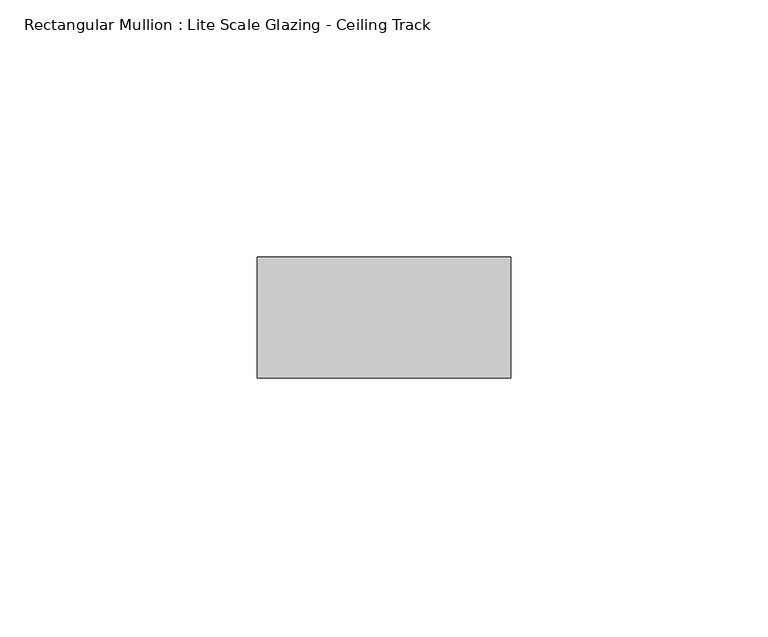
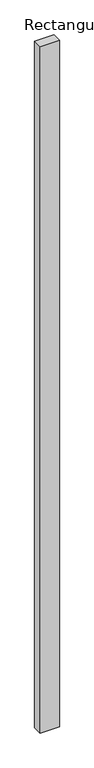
"""IFC4 building model written with IfcOpenShell, lengths in millimetres: member geometry, Rectangular Mullion : Lite Scale Glazing - Ceiling Track."""

from ifc_helpers import new_model, si_unit, frame, origin, place, context, project, spatial, polyline, outline, extrude, source, transform, mapped, element, save


def rectangular_mullion_lite_scale_glazing_ceiling_track_1d171377(model_context):
    return source(origin(), model_context, "Body", "SweptSolid", [
        extrude(outline(polyline([(-49.276, -11.7474999), (-49.276, 11.7474999), (0.0, 11.7474999), (0.0, -11.7474999), (-49.276, -11.7474999)])), frame((0.0, 0.0, -1854.2), z_axis=(0.0, 0.0, 1.0), x_axis=(1.0, 0.0, 0.0)), (0.0, 0.0, 1.0), 1854.2),
    ])


if __name__ == "__main__":
    model = new_model("IFC4")
    model_context = context("Model", 3, world=origin())
    ifc_project = project(units=[si_unit("LENGTHUNIT", "METRE", prefix="MILLI")], contexts=[model_context])
    site = spatial("IfcSite", under=ifc_project)
    building = spatial("IfcBuilding", under=site)
    placement = place(None, origin())
    rectangular_mullion_lite_scale_glazing_ceiling_track_shape = rectangular_mullion_lite_scale_glazing_ceiling_track_1d171377(model_context)
    element("IfcMember", 1, ObjectType="Rectangular Mullion : Lite Scale Glazing - Ceiling Track", at=placement, inside=building, context=model_context, shape_type="MappedRepresentation", body=[
        mapped(rectangular_mullion_lite_scale_glazing_ceiling_track_shape, transform((0.0, 0.0, 0.0), x_axis=(1.0, 0.0, 0.0), y_axis=(0.0, 1.0, 0.0), z_axis=(0.0, 0.0, 1.0))),
    ])
    save(model, "model.ifc")
